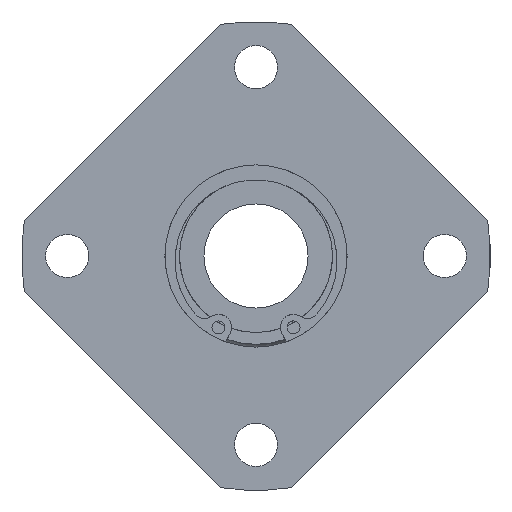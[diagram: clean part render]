
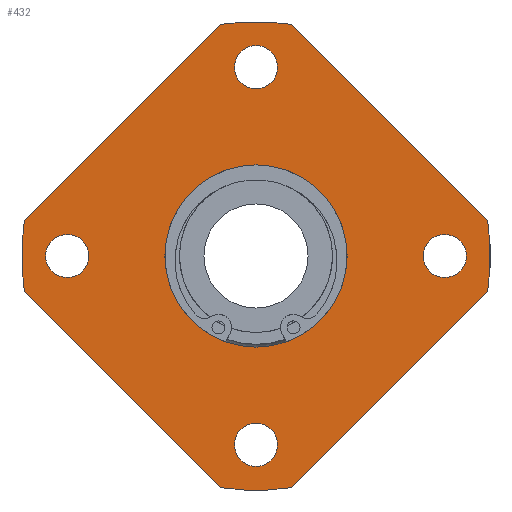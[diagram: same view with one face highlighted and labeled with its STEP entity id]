
A CAD part, left-side view. The second image highlights one B-rep face of the part: STEP entity #432.
In plain terms, the highlighted planar face has unit normal (-1, 0, 0).
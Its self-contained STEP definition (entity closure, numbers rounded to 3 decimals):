
#60=CARTESIAN_POINT('',(0.0,29.,-3.324));
#61=VERTEX_POINT('',#60);
#62=CARTESIAN_POINT('',(0.0,29.,0.));
#63=DIRECTION('',(1.0,0.0,0.0));
#64=DIRECTION('',(0.0,0.0,-1.0));
#65=AXIS2_PLACEMENT_3D('',#62,#63,#64);
#66=CIRCLE('',#65,3.324);
#67=EDGE_CURVE('',#61,#61,#66,.T.);
#88=CARTESIAN_POINT('',(0.0,-3.324,-29.));
#89=VERTEX_POINT('',#88);
#90=CARTESIAN_POINT('',(0.0,0.,-29.));
#91=DIRECTION('',(1.0,0.0,0.0));
#92=DIRECTION('',(0.0,-1.0,0.0));
#93=AXIS2_PLACEMENT_3D('',#90,#91,#92);
#94=CIRCLE('',#93,3.324);
#95=EDGE_CURVE('',#89,#89,#94,.T.);
#116=CARTESIAN_POINT('',(0.0,-29.,3.324));
#117=VERTEX_POINT('',#116);
#118=CARTESIAN_POINT('',(0.0,-29.,0.));
#119=DIRECTION('',(1.0,0.0,0.0));
#120=DIRECTION('',(0.0,0.0,1.0));
#121=AXIS2_PLACEMENT_3D('',#118,#119,#120);
#122=CIRCLE('',#121,3.324);
#123=EDGE_CURVE('',#117,#117,#122,.T.);
#144=CARTESIAN_POINT('',(0.0,3.324,29.));
#145=VERTEX_POINT('',#144);
#146=CARTESIAN_POINT('',(0.0,0.0,29.));
#147=DIRECTION('',(1.0,0.0,0.0));
#148=DIRECTION('',(0.0,1.0,0.0));
#149=AXIS2_PLACEMENT_3D('',#146,#147,#148);
#150=CIRCLE('',#149,3.324);
#151=EDGE_CURVE('',#145,#145,#150,.T.);
#171=CARTESIAN_POINT('',(0.0,35.589,5.423));
#172=VERTEX_POINT('',#171);
#179=CARTESIAN_POINT('',(0.0,5.423,35.589));
#180=VERTEX_POINT('',#179);
#181=CARTESIAN_POINT('',(0.0,5.423,35.589));
#182=DIRECTION('',(0.0,0.707,-0.707));
#183=VECTOR('',#182,42.661);
#184=LINE('',#181,#183);
#185=EDGE_CURVE('',#180,#172,#184,.T.);
#211=CARTESIAN_POINT('',(0.0,5.423,-35.589));
#212=VERTEX_POINT('',#211);
#219=CARTESIAN_POINT('',(0.0,35.589,-5.423));
#220=VERTEX_POINT('',#219);
#221=CARTESIAN_POINT('',(0.0,35.589,-5.423));
#222=DIRECTION('',(0.0,-0.707,-0.707));
#223=VECTOR('',#222,42.661);
#224=LINE('',#221,#223);
#225=EDGE_CURVE('',#220,#212,#224,.T.);
#251=CARTESIAN_POINT('',(0.0,-5.423,35.589));
#252=VERTEX_POINT('',#251);
#259=CARTESIAN_POINT('',(0.0,-35.589,5.423));
#260=VERTEX_POINT('',#259);
#261=CARTESIAN_POINT('',(0.0,-35.589,5.423));
#262=DIRECTION('',(0.0,0.707,0.707));
#263=VECTOR('',#262,42.661);
#264=LINE('',#261,#263);
#265=EDGE_CURVE('',#260,#252,#264,.T.);
#291=CARTESIAN_POINT('',(0.0,-35.589,-5.423));
#292=VERTEX_POINT('',#291);
#299=CARTESIAN_POINT('',(0.0,-5.423,-35.589));
#300=VERTEX_POINT('',#299);
#301=CARTESIAN_POINT('',(0.0,-5.423,-35.589));
#302=DIRECTION('',(0.0,-0.707,0.707));
#303=VECTOR('',#302,42.661);
#304=LINE('',#301,#303);
#305=EDGE_CURVE('',#300,#292,#304,.T.);
#322=CARTESIAN_POINT('',(0.0,0.0,0.0));
#323=DIRECTION('',(-1.0,0.0,0.0));
#324=DIRECTION('',(0.0,0.0,1.0));
#325=AXIS2_PLACEMENT_3D('',#322,#323,#324);
#326=CIRCLE('',#325,36.0);
#327=EDGE_CURVE('',#292,#260,#326,.T.);
#354=CARTESIAN_POINT('',(0.0,0.0,0.0));
#355=DIRECTION('',(-1.0,0.0,0.0));
#356=DIRECTION('',(0.0,0.0,1.0));
#357=AXIS2_PLACEMENT_3D('',#354,#355,#356);
#358=CIRCLE('',#357,36.0);
#359=EDGE_CURVE('',#212,#300,#358,.T.);
#378=CARTESIAN_POINT('',(0.0,0.0,0.0));
#379=DIRECTION('',(-1.0,0.0,0.0));
#380=DIRECTION('',(0.0,0.0,1.0));
#381=AXIS2_PLACEMENT_3D('',#378,#379,#380);
#382=CIRCLE('',#381,36.0);
#383=EDGE_CURVE('',#172,#220,#382,.T.);
#388=CARTESIAN_POINT('',(0.0,0.0,25.0));
#389=DIRECTION('',(-1.0,0.0,0.0));
#390=DIRECTION('',(0.0,0.0,1.0));
#391=AXIS2_PLACEMENT_3D('',#388,#389,#390);
#392=PLANE('',#391);
#393=ORIENTED_EDGE('',*,*,#185,.T.);
#394=ORIENTED_EDGE('',*,*,#383,.T.);
#395=ORIENTED_EDGE('',*,*,#225,.T.);
#396=ORIENTED_EDGE('',*,*,#359,.T.);
#397=ORIENTED_EDGE('',*,*,#305,.T.);
#398=ORIENTED_EDGE('',*,*,#327,.T.);
#399=ORIENTED_EDGE('',*,*,#265,.T.);
#400=CARTESIAN_POINT('',(0.0,0.0,0.0));
#401=DIRECTION('',(-1.0,0.0,0.0));
#402=DIRECTION('',(0.0,0.0,1.0));
#403=AXIS2_PLACEMENT_3D('',#400,#401,#402);
#404=CIRCLE('',#403,36.0);
#405=EDGE_CURVE('',#252,#180,#404,.T.);
#406=ORIENTED_EDGE('',*,*,#405,.T.);
#407=EDGE_LOOP('',(#393,#394,#395,#396,#397,#398,#399,#406));
#408=FACE_OUTER_BOUND('',#407,.T.);
#409=ORIENTED_EDGE('',*,*,#67,.T.);
#410=EDGE_LOOP('',(#409));
#411=FACE_BOUND('',#410,.T.);
#412=ORIENTED_EDGE('',*,*,#95,.T.);
#413=EDGE_LOOP('',(#412));
#414=FACE_BOUND('',#413,.T.);
#415=ORIENTED_EDGE('',*,*,#123,.T.);
#416=EDGE_LOOP('',(#415));
#417=FACE_BOUND('',#416,.T.);
#418=ORIENTED_EDGE('',*,*,#151,.T.);
#419=EDGE_LOOP('',(#418));
#420=FACE_BOUND('',#419,.T.);
#421=CARTESIAN_POINT('',(0.0,0.0,14.));
#422=VERTEX_POINT('',#421);
#423=CARTESIAN_POINT('',(0.0,0.0,0.0));
#424=DIRECTION('',(-1.0,0.0,0.0));
#425=DIRECTION('',(0.0,0.0,1.0));
#426=AXIS2_PLACEMENT_3D('',#423,#424,#425);
#427=CIRCLE('',#426,14.);
#428=EDGE_CURVE('',#422,#422,#427,.T.);
#429=ORIENTED_EDGE('',*,*,#428,.F.);
#430=EDGE_LOOP('',(#429));
#431=FACE_BOUND('',#430,.T.);
#432=ADVANCED_FACE('',(#408,#411,#414,#417,#420,#431),#392,.T.);
